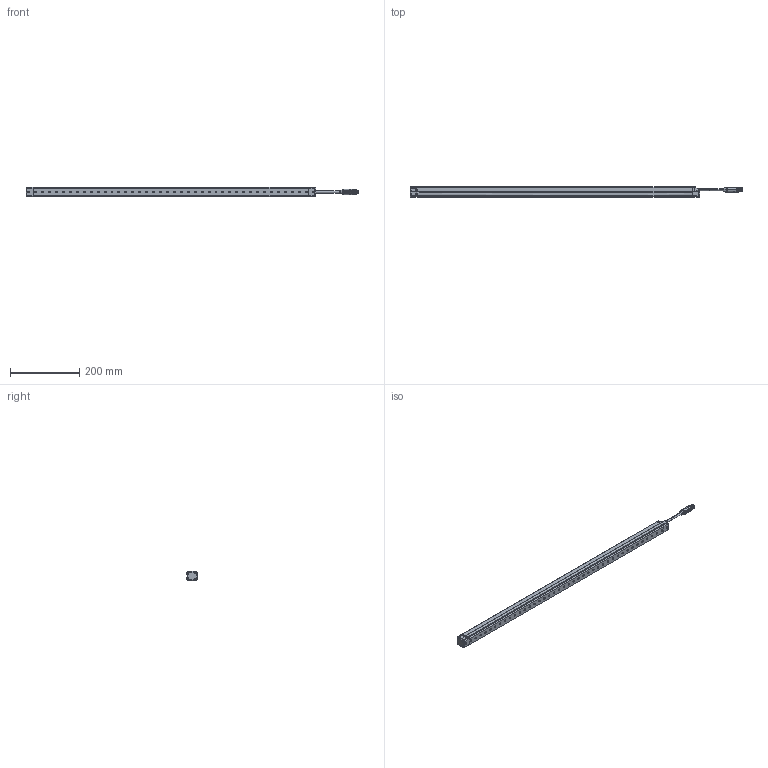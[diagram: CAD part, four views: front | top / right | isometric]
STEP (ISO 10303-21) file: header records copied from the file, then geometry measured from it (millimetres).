
FILE_DESCRIPTION((''),'2;1');
FILE_NAME('EFP-4220_ASM','2022-12-28T08:58:29',('18720616900'),(''),'CREO PARAMETRIC BY PTC INC, 2019010','CREO PARAMETRIC BY PTC INC, 2019010','');
FILE_SCHEMA(('CONFIG_CONTROL_DESIGN'));
Products named in the file (9): EFP-3-_A; EFP-3-_AF; EFP2-0; M26-14; M26-30; _0002; _0001_ASM; EFP-4220_ASM
Assembly tree (14 placements, depth 3):
  EFP-4220_ASM
    EFP-3-_A
    EFP-3-_AF
    EFP-3-_AF
    EFP2-0
    M26-14  x2
    M26-30  x6
    _0001_ASM
      _0002
Bounding box: 957.47 x 30 x 28.01 mm (x, y, z)
Volume: 606653.1 mm3; surface area: 151161.4 mm2
Topology: 13 solids, 649 shells, 3040 faces, 9763 edges, 7445 vertices
Faces by surface type: bspline 1174, plane 743, cone 450, cylinder 446, extrusion 161, torus 60, revolution 4, sphere 2
Entity records: 141678 total; most frequent: CARTESIAN_POINT 81442, ORIENTED_EDGE 11980, DIRECTION 9025, EDGE_CURVE 7947, VERTEX_POINT 6324, VECTOR 4031, LINE 3870, B_SPLINE_CURVE_WITH_KNOTS 3082
